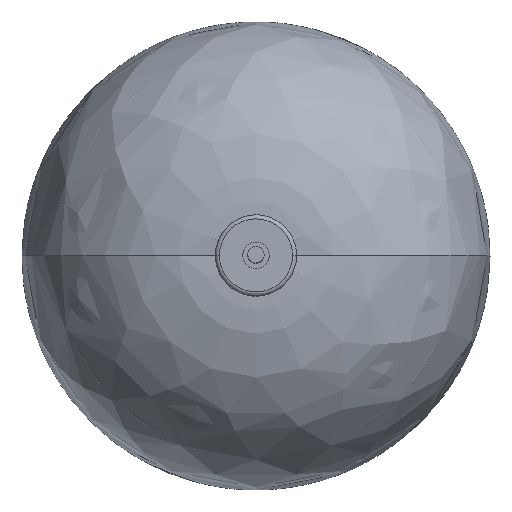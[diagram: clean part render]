
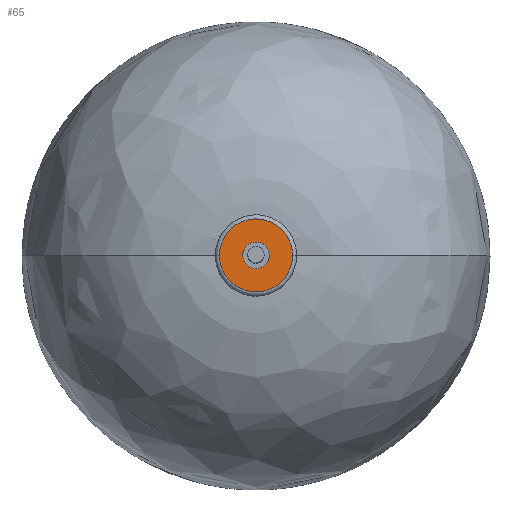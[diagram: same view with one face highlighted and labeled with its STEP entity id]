
A CAD part, top view. The second image highlights one B-rep face of the part: STEP entity #65.
In plain terms, the highlighted planar face has unit normal (0, 0, 1).
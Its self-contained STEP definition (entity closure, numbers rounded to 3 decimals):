
#49=FACE_BOUND('',#234,.T.);
#65=ADVANCED_FACE('',(#149,#49),#1108,.T.);
#149=FACE_OUTER_BOUND('',#233,.T.);
#233=EDGE_LOOP('',(#335,#336));
#234=EDGE_LOOP('',(#337,#338));
#335=ORIENTED_EDGE('',*,*,#686,.F.);
#336=ORIENTED_EDGE('',*,*,#673,.F.);
#337=ORIENTED_EDGE('',*,*,#676,.F.);
#338=ORIENTED_EDGE('',*,*,#677,.F.);
#673=EDGE_CURVE('',#1004,#1012,#842,.T.);
#676=EDGE_CURVE('',#1006,#1007,#845,.T.);
#677=EDGE_CURVE('',#1007,#1006,#846,.T.);
#686=EDGE_CURVE('',#1012,#1004,#855,.T.);
#842=(
BOUNDED_CURVE()
B_SPLINE_CURVE(3,(#1645,#1646,#1647,#1648,#1649,#1650,#1651,#1652,#1653,
#1654,#1655,#1656,#1657,#1658,#1659,#1660,#1661,#1662,#1663,#1664,#1665,
#1666,#1667,#1668,#1669),.UNSPECIFIED.,.F.,.F.)
B_SPLINE_CURVE_WITH_KNOTS((4,1,1,1,1,1,1,1,1,1,3,1,1,1,1,1,1,1,1,1,4),(0.,
4.528,6.801,9.074,11.606,14.137,
16.669,19.2,21.473,23.746,28.274,
32.802,35.075,37.348,39.88,42.411,
44.943,47.475,49.748,52.021,56.549),
 .UNSPECIFIED.)
CURVE()
GEOMETRIC_REPRESENTATION_ITEM()
RATIONAL_B_SPLINE_CURVE((1.,1.,1.,1.,1.,1.,
1.,1.,1.,1.,1.,1.,1.,1.,1.,1.,1.,1.,1.,
1.,1.,1.,1.,1.,1.))
REPRESENTATION_ITEM('')
);
#845=(
BOUNDED_CURVE()
B_SPLINE_CURVE(2,(#1698,#1699,#1700,#1701,#1702),.UNSPECIFIED.,.F.,.F.)
B_SPLINE_CURVE_WITH_KNOTS((3,2,3),(-4.712,-3.142,
-1.571),.UNSPECIFIED.)
CURVE()
GEOMETRIC_REPRESENTATION_ITEM()
RATIONAL_B_SPLINE_CURVE((1.,0.707,1.,0.707,1.))
REPRESENTATION_ITEM('')
);
#846=(
BOUNDED_CURVE()
B_SPLINE_CURVE(2,(#1703,#1704,#1705,#1706,#1707),.UNSPECIFIED.,.F.,.F.)
B_SPLINE_CURVE_WITH_KNOTS((3,2,3),(-4.712,-3.142,
-1.571),.UNSPECIFIED.)
CURVE()
GEOMETRIC_REPRESENTATION_ITEM()
RATIONAL_B_SPLINE_CURVE((1.,0.707,1.,0.707,1.))
REPRESENTATION_ITEM('')
);
#855=(
BOUNDED_CURVE()
B_SPLINE_CURVE(3,(#1737,#1738,#1739,#1740,#1741,#1742,#1743,#1744,#1745,
#1746,#1747,#1748,#1749,#1750,#1751,#1752,#1753,#1754,#1755,#1756,#1757,
#1758,#1759,#1760,#1761),.UNSPECIFIED.,.F.,.F.)
B_SPLINE_CURVE_WITH_KNOTS((4,1,1,1,1,1,1,1,1,1,3,1,1,1,1,1,1,1,1,1,4),(56.549,
61.077,63.35,65.623,68.154,70.686,
73.217,75.749,78.022,80.295,84.823,
89.351,91.624,93.897,96.429,98.96,
101.492,104.023,106.296,108.569,113.097),
 .UNSPECIFIED.)
CURVE()
GEOMETRIC_REPRESENTATION_ITEM()
RATIONAL_B_SPLINE_CURVE((1.,1.,1.,1.,1.,1.,
1.,1.,1.,1.,1.,1.,1.,1.,
1.,1.,1.,1.,1.,1.,1.,1.,1.,
1.,1.))
REPRESENTATION_ITEM('')
);
#1004=VERTEX_POINT('',#1620);
#1006=VERTEX_POINT('',#1622);
#1007=VERTEX_POINT('',#1623);
#1012=VERTEX_POINT('',#1628);
#1108=PLANE('',#1210);
#1210=AXIS2_PLACEMENT_3D('',#1270,#1235,$);
#1235=DIRECTION('',(0.,0.,1.));
#1270=CARTESIAN_POINT('',(2393.966,73.525,277.714));
#1620=CARTESIAN_POINT('',(2436.966,48.525,277.714));
#1622=CARTESIAN_POINT('',(2418.966,44.525,277.714));
#1623=CARTESIAN_POINT('',(2418.966,52.525,277.714));
#1628=CARTESIAN_POINT('',(2400.966,48.525,277.714));
#1645=CARTESIAN_POINT('',(2436.966,48.525,277.714));
#1646=CARTESIAN_POINT('',(2436.966,47.016,277.714));
#1647=CARTESIAN_POINT('',(2436.679,44.749,277.714));
#1648=CARTESIAN_POINT('',(2435.741,41.867,277.714));
#1649=CARTESIAN_POINT('',(2434.732,39.729,277.714));
#1650=CARTESIAN_POINT('',(2433.4,37.671,277.714));
#1651=CARTESIAN_POINT('',(2431.736,35.755,277.714));
#1652=CARTESIAN_POINT('',(2429.82,34.091,277.714));
#1653=CARTESIAN_POINT('',(2427.762,32.759,277.714));
#1654=CARTESIAN_POINT('',(2425.624,31.75,277.714));
#1655=CARTESIAN_POINT('',(2422.742,30.812,277.714));
#1656=CARTESIAN_POINT('',(2420.476,30.525,277.714));
#1657=CARTESIAN_POINT('',(2418.966,30.525,277.714));
#1658=CARTESIAN_POINT('',(2417.457,30.525,277.714));
#1659=CARTESIAN_POINT('',(2415.19,30.812,277.714));
#1660=CARTESIAN_POINT('',(2412.308,31.75,277.714));
#1661=CARTESIAN_POINT('',(2410.17,32.759,277.714));
#1662=CARTESIAN_POINT('',(2408.112,34.091,277.714));
#1663=CARTESIAN_POINT('',(2406.196,35.755,277.714));
#1664=CARTESIAN_POINT('',(2404.532,37.671,277.714));
#1665=CARTESIAN_POINT('',(2403.2,39.729,277.714));
#1666=CARTESIAN_POINT('',(2402.191,41.867,277.714));
#1667=CARTESIAN_POINT('',(2401.253,44.749,277.714));
#1668=CARTESIAN_POINT('',(2400.966,47.016,277.714));
#1669=CARTESIAN_POINT('',(2400.966,48.525,277.714));
#1698=CARTESIAN_POINT('',(2418.966,44.525,277.714));
#1699=CARTESIAN_POINT('',(2422.966,44.525,277.714));
#1700=CARTESIAN_POINT('',(2422.966,48.525,277.714));
#1701=CARTESIAN_POINT('',(2422.966,52.525,277.714));
#1702=CARTESIAN_POINT('',(2418.966,52.525,277.714));
#1703=CARTESIAN_POINT('',(2418.966,52.525,277.714));
#1704=CARTESIAN_POINT('',(2414.966,52.525,277.714));
#1705=CARTESIAN_POINT('',(2414.966,48.525,277.714));
#1706=CARTESIAN_POINT('',(2414.966,44.525,277.714));
#1707=CARTESIAN_POINT('',(2418.966,44.525,277.714));
#1737=CARTESIAN_POINT('',(2400.966,48.525,277.714));
#1738=CARTESIAN_POINT('',(2400.966,50.034,277.714));
#1739=CARTESIAN_POINT('',(2401.253,52.301,277.714));
#1740=CARTESIAN_POINT('',(2402.191,55.183,277.714));
#1741=CARTESIAN_POINT('',(2403.2,57.321,277.714));
#1742=CARTESIAN_POINT('',(2404.532,59.379,277.714));
#1743=CARTESIAN_POINT('',(2406.196,61.295,277.714));
#1744=CARTESIAN_POINT('',(2408.112,62.959,277.714));
#1745=CARTESIAN_POINT('',(2410.17,64.291,277.714));
#1746=CARTESIAN_POINT('',(2412.308,65.3,277.714));
#1747=CARTESIAN_POINT('',(2415.19,66.238,277.714));
#1748=CARTESIAN_POINT('',(2417.457,66.525,277.714));
#1749=CARTESIAN_POINT('',(2418.966,66.525,277.714));
#1750=CARTESIAN_POINT('',(2420.476,66.525,277.714));
#1751=CARTESIAN_POINT('',(2422.742,66.238,277.714));
#1752=CARTESIAN_POINT('',(2425.624,65.3,277.714));
#1753=CARTESIAN_POINT('',(2427.762,64.291,277.714));
#1754=CARTESIAN_POINT('',(2429.82,62.959,277.714));
#1755=CARTESIAN_POINT('',(2431.736,61.295,277.714));
#1756=CARTESIAN_POINT('',(2433.4,59.379,277.714));
#1757=CARTESIAN_POINT('',(2434.732,57.321,277.714));
#1758=CARTESIAN_POINT('',(2435.741,55.183,277.714));
#1759=CARTESIAN_POINT('',(2436.679,52.301,277.714));
#1760=CARTESIAN_POINT('',(2436.966,50.034,277.714));
#1761=CARTESIAN_POINT('',(2436.966,48.525,277.714));
